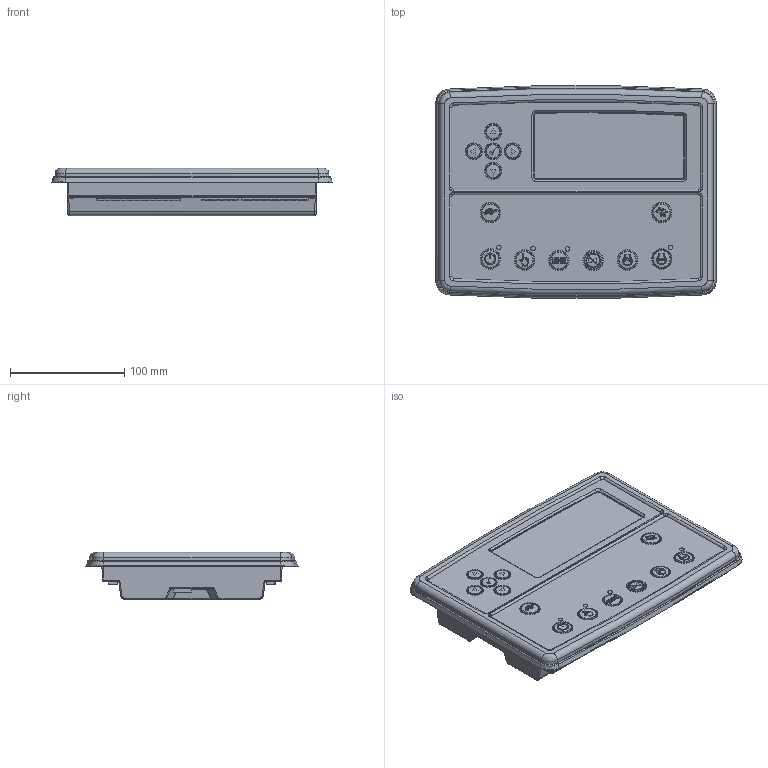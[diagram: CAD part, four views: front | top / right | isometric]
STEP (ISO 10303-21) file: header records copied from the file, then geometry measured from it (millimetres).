
FILE_DESCRIPTION (( 'STEP AP214' ), '1' );
FILE_NAME ('E800 Solid Model (2).STEP', '2020-07-31T14:10:11', ( '' ), ( '' ), 'SwSTEP 2.0', 'SolidWorks 2019', '' );
FILE_SCHEMA (( 'AUTOMOTIVE_DESIGN' ));
Length unit declared in the file: millimetre
Products named in the file (1): E800 Solid Model (2)
Bounding box: 245.2 x 185.61 x 41.5 mm (x, y, z)
Volume: 1290469.3 mm3; surface area: 131158.5 mm2
Topology: 1 solids, 1 shells, 2582 faces, 6559 edges, 4084 vertices
Faces by surface type: plane 1649, bspline 282, cylinder 277, cone 235, sphere 79, torus 60
Full cylindrical faces by diameter (mm): 0.441 x1, 0.476 x1, 1 x14, 4 x4, 12.5 x5, 14.5 x5, 15.5 x8, 17.5 x8
Entity records: 90879 total; most frequent: CARTESIAN_POINT 29156, ORIENTED_EDGE 12626, DIRECTION 10918, EDGE_CURVE 6313, LINE 4386, VECTOR 4386, VERTEX_POINT 4009, AXIS2_PLACEMENT_3D 3266
